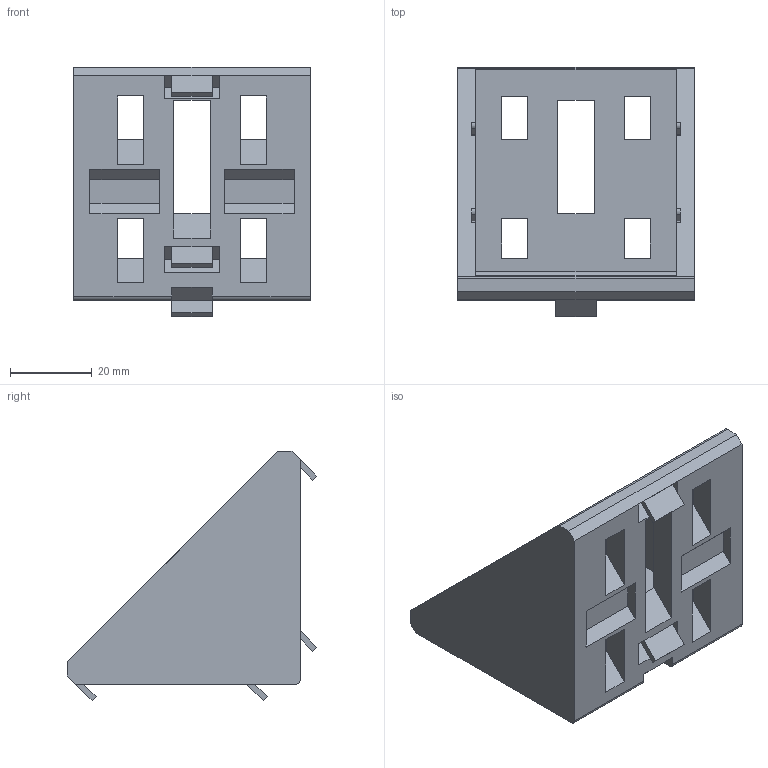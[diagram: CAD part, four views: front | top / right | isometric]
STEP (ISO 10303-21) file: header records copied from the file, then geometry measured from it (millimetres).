
FILE_DESCRIPTION(/* description */ ('ANGLE BRACKET 90° 57x57'),/* implementation_level */ '2;1');
FILE_NAME(/* name */ 'X:\Magnus\Hemsidan\STEP filer\STEP-Carryline Standarddelar\Serie 100\100-4030.stp',/* time_stamp */ '2013-12-20T13:05:03+01:00',/* author */ ('Mathias'),/* organization */ ('CARRYLINE'),/* preprocessor_version */ 'ST-DEVELOPER v15.2',/* originating_system */ 'Autodesk Inventor 2014',/* authorisation */ '');
FILE_SCHEMA (('AUTOMOTIVE_DESIGN { 1 0 10303 214 3 1 1 }'));
Length unit declared in the file: millimetre
Products named in the file (1): 100-4030
Bounding box: 58 x 61.03 x 61.03 mm (x, y, z)
Volume: 39667.5 mm3; surface area: 20791.9 mm2
Topology: 1 solids, 1 shells, 141 faces, 382 edges, 252 vertices
Faces by surface type: plane 124, cylinder 17
Entity records: 4427 total; most frequent: CARTESIAN_POINT 776, ORIENTED_EDGE 764, DIRECTION 700, EDGE_CURVE 382, LINE 348, VECTOR 348, VERTEX_POINT 252, AXIS2_PLACEMENT_3D 176
